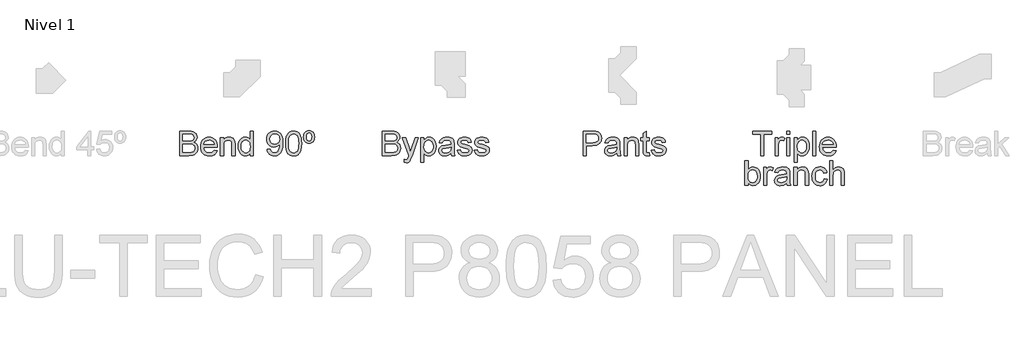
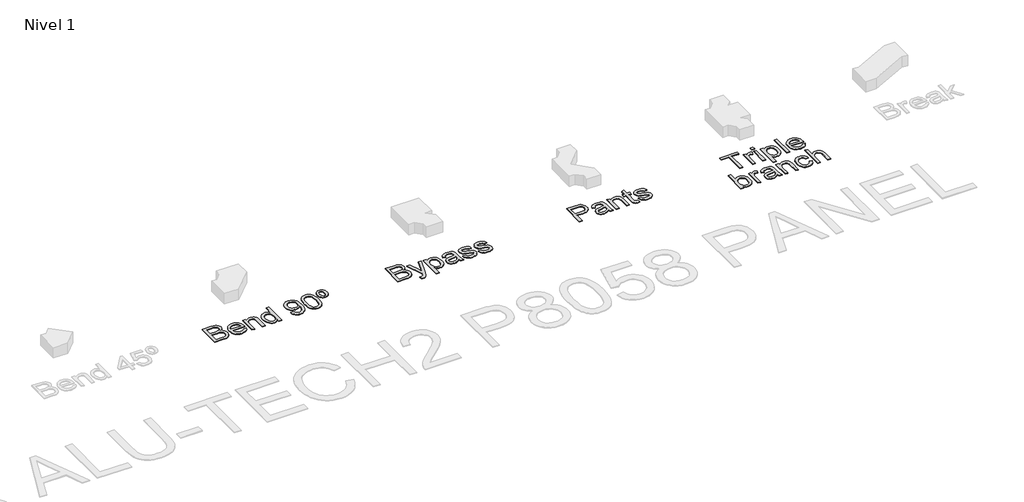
# One storey, part 4 of 6: 4 proxies.
"""IFC4 building model written with IfcOpenShell, lengths in millimetres."""

from ifc_helpers import new_model, si_unit, origin, origin_with_axes, place, context, project, spatial, polyline, outline, extrude, element, save

model = new_model("IFC4")

# Units and contexts
model_context = context("Model", 3, world=origin())
ifc_project = project(units=[si_unit("LENGTHUNIT", "METRE", prefix="MILLI")], contexts=[model_context])

# Site, building, storey
site = spatial("IfcSite", under=ifc_project)
building = spatial("IfcBuilding", under=site)
storey = spatial("IfcBuildingStorey", under=building, Name="Nivel 1", Elevation=0.0)

# Proxies
placement = place(None, origin())
element("IfcBuildingElementProxy", 1, Name="Texto de modelo 1", ObjectType="Texto de modelo 1", at=placement, inside=storey, context=model_context, shape_type="SweptSolid", body=[
    extrude(outline(polyline([(-8147.2257792, -1016.3248037), (-8147.2257792, -614.4995631), (-7993.8925636, -614.4995631), (-7951.7210242, -617.4548818), (-7918.7955857, -626.3208379), (-7893.5588808, -641.3181605), (-7874.4535425, -662.667579), (-7862.4238013, -687.7816565), (-7858.4138875, -714.0729565), (-7861.7861391, -738.267329), (-7871.902894, -761.014699), (-7888.8377285, -780.917115), (-7912.6642191, -796.5766252), (-7884.2024154, -811.4390578), (-7863.171828, -834.0515378), (-7850.1855936, -862.9180117), (-7845.8568488, -896.5424261), (-7848.8121674, -924.5627714), (-7857.6781235, -950.547503), (-7870.9096126, -972.6449481), (-7886.9615303, -989.0034342), (-7906.6186916, -1000.8492344), (-7930.6659114, -1009.4086222), (-7959.8880045, -1014.5957583), (-7995.069786, -1016.3248037), (-8147.2257792, -1016.3248037)]), holes=[polyline([(-8096.9976241, -777.7410671), (-8005.27238, -777.7410671), (-7951.7087615, -773.424585), (-7932.9590425, -765.981106), (-7919.4822987, -754.8342815), (-7911.3521066, -740.1557899), (-7908.6420426, -722.1173094), (-7911.1681656, -704.6061264), (-7918.7465347, -689.3512864), (-7931.0337934, -677.4441725), (-7947.686585, -669.976168), (-7973.2421209, -666.0398306), (-8012.2376124, -664.7277182), (-8096.9976241, -664.7277182), (-8096.9976241, -777.7410671)]), polyline([(-8096.9976241, -966.0966486), (-7993.9906655, -966.0966486), (-7956.7119566, -964.1346113), (-7925.1722069, -953.1962533), (-7913.5961868, -943.7662115), (-7904.2765096, -930.8780789), (-7898.1328803, -915.1082041), (-7896.0850038, -897.0329354), (-7898.4884995, -876.0391362), (-7905.6989866, -857.988393), (-7918.2928136, -843.8739871), (-7936.8463289, -834.6891999), (-7963.1253661, -829.6492166), (-7998.8957587, -827.9692222), (-8096.9976241, -827.9692222), (-8096.9976241, -966.0966486)])]), origin_with_axes(), (0.0, 0.0, 1.0), 10.0),
    extrude(outline(polyline([(-7576.4691264, -928.4255323), (-7527.22199, -934.7040517), (-7534.7727679, -954.428658), (-7544.9661649, -971.8110823), (-7557.8021808, -986.8513245), (-7573.2808158, -999.5493847), (-7591.2426542, -1009.6354827), (-7611.5282806, -1016.8398385), (-7659.0708971, -1022.6033231), (-7690.2366334, -1020.1170539), (-7718.0055927, -1012.6582465), (-7742.3777749, -1000.2269007), (-7763.35318, -982.8230167), (-7780.2205694, -960.9309723), (-7792.2687048, -935.0351455), (-7799.497586, -905.1355363), (-7801.9072131, -871.2321448), (-7799.4730605, -836.179122), (-7792.1706029, -805.2831658), (-7779.9998402, -778.5442761), (-7762.9607725, -755.962453), (-7742.0405497, -738.0220743), (-7718.2263219, -725.2075182), (-7691.518089, -717.5187845), (-7661.9158512, -714.9558732), (-7633.2670408, -717.5126531), (-7607.3589513, -725.1829927), (-7584.1915826, -737.966892), (-7563.7649348, -755.8643511), (-7547.0906834, -778.3971233), (-7535.1805038, -805.0869621), (-7528.0343961, -835.9338674), (-7525.6523601, -870.9378392), (-7525.9466657, -884.4758966), (-7751.679058, -884.4758966), (-7748.7697245, -904.519334), (-7742.9847802, -922.0734365), (-7734.3242249, -937.1382042), (-7722.7880586, -949.7136371), (-7709.0139436, -959.6280569), (-7693.6395419, -966.7097853), (-7658.0898784, -972.375168), (-7631.3571201, -969.7509431), (-7608.842742, -961.8782684), (-7590.5467441, -948.2666346), (-7576.4691264, -928.4255323)]), holes=[polyline([(-7751.679058, -834.2477415), (-7575.8805152, -834.2477415), (-7582.6740694, -807.711187), (-7595.9913976, -788.728476), (-7609.6888706, -778.4277801), (-7625.2748044, -771.0701402), (-7642.7491992, -766.6555563), (-7662.1120549, -765.1840283), (-7695.9694612, -769.8806551), (-7723.965281, -783.9705355), (-7743.4262386, -805.9330907), (-7751.679058, -834.2477415)])]), origin_with_axes(), (0.0, 0.0, 1.0), 10.0),
    extrude(outline(polyline([(-7475.4242051, -1016.3248037), (-7475.4242051, -721.2343926), (-7425.19605, -721.2343926), (-7425.19605, -762.4371761), (-7407.7461807, -741.6641061), (-7386.7891697, -726.826199), (-7362.325017, -717.9234547), (-7334.3537227, -714.9558732), (-7309.5952644, -717.3471062), (-7286.9214707, -724.5208051), (-7268.0123362, -735.5817904), (-7254.5478552, -749.6348827), (-7245.412119, -766.6432936), (-7239.4892188, -786.570235), (-7236.8404685, -835.1306583), (-7236.8404685, -1016.3248037), (-7287.0686235, -1016.3248037), (-7287.0686235, -841.899687), (-7288.5156261, -815.9272182), (-7292.8566336, -797.459542), (-7300.8641984, -784.2280529), (-7313.3108725, -773.9641453), (-7329.2646884, -767.3790576), (-7347.7936782, -765.1840283), (-7377.2119751, -770.1136471), (-7402.2892644, -784.9025033), (-7412.3109831, -796.9751641), (-7419.4693536, -813.4746716), (-7423.7643759, -834.4010257), (-7425.19605, -859.7542265), (-7425.19605, -1016.3248037), (-7475.4242051, -1016.3248037)])), origin_with_axes(), (0.0, 0.0, 1.0), 10.0),
    extrude(outline(polyline([(-6985.6996931, -1016.3248037), (-6985.6996931, -968.9416027), (-7000.7276726, -992.4186054), (-7018.9317, -1009.187893), (-7040.3117753, -1019.2494656), (-7064.8678985, -1022.6033231), (-7097.3396159, -1017.7472807), (-7127.0644811, -1003.1791537), (-7152.2276096, -979.9167489), (-7171.0141168, -948.9778731), (-7182.7127642, -911.6133251), (-7186.6123134, -869.0739038), (-7183.0193326, -827.0617799), (-7172.2403901, -789.1208835), (-7154.2877488, -757.4094555), (-7129.1736712, -734.085737), (-7098.7988811, -719.7383392), (-7065.0641022, -714.9558732), (-7040.4895849, -718.3771758), (-7018.7600217, -728.6410835), (-7000.3413965, -744.3741701), (-6985.6996931, -764.2030097), (-6985.6996931, -614.4995631), (-6935.471538, -614.4995631), (-6935.471538, -1016.3248037), (-6985.6996931, -1016.3248037)]), holes=[polyline([(-7136.3841583, -868.8777), (-7134.9678126, -893.2345538), (-7130.7187756, -914.3111264), (-7123.6370472, -932.1074179), (-7113.7226274, -946.6234283), (-7089.0254828, -965.9372331), (-7075.1502002, -970.7656843), (-7060.2571108, -972.375168), (-7045.2935106, -970.8392607), (-7031.5010015, -966.2315387), (-7007.4292563, -947.8006507), (-6997.9225724, -933.8916456), (-6991.1320839, -916.7391476), (-6985.6996931, -872.7036728), (-6991.2301858, -824.5601823), (-6998.1433016, -806.0250612), (-7007.8216637, -791.1810226), (-7019.5233769, -779.8073376), (-7032.5065456, -771.6832769), (-7046.77117, -766.8088405), (-7062.31725, -765.1840283), (-7077.504645, -766.7444611), (-7091.3799276, -771.4257595), (-7103.9430977, -779.2279235), (-7115.1941554, -790.1509531), (-7124.4647817, -804.4339715), (-7131.0866576, -822.3161022), (-7136.3841583, -868.8777)])]), origin_with_axes(), (0.0, 0.0, 1.0), 10.0),
    extrude(outline(polyline([(-6709.4448402, -915.8684935), (-6659.2166851, -909.5899742), (-6650.6327719, -938.1008288), (-6636.6532561, -957.5127354), (-6617.6214942, -968.6595599), (-6593.8808428, -972.375168), (-6572.5804752, -969.983935), (-6553.2176196, -962.8102361), (-6537.1289136, -951.6388862), (-6525.6509954, -937.2547002), (-6509.2189329, -893.5993701), (-6503.7742794, -865.1988801), (-6501.9593949, -835.3268621), (-6502.2537005, -825.5166755), (-6519.6545189, -846.7557294), (-6542.4264144, -863.5801993), (-6568.9261808, -874.5430828), (-6597.5106118, -878.1973772), (-6621.3708249, -875.9655598), (-6643.3119202, -869.2701075), (-6663.3338978, -858.1110203), (-6681.4367576, -842.4882982), (-6696.437146, -823.2174131), (-6707.1517091, -801.1138365), (-6713.5804469, -776.1775686), (-6715.7233596, -748.4086093), (-6713.4762137, -719.7138137), (-6706.7347762, -693.9620741), (-6695.4990469, -671.1533904), (-6679.7690259, -651.2877626), (-6660.6544906, -635.1929253), (-6639.2652182, -623.696613), (-6615.6012089, -616.7988256), (-6589.6624626, -614.4995631), (-6552.1998127, -619.7480129), (-6518.0971518, -635.4933623), (-6489.5740344, -660.9507964), (-6468.8500153, -695.3355002), (-6456.2316629, -742.8658539), (-6452.0255454, -807.7602379), (-6456.2194002, -876.5664337), (-6468.8009644, -929.7499075), (-6489.6598735, -969.7141549), (-6503.1519457, -985.6403796), (-6518.685763, -998.8626717), (-6535.9486256, -1009.2492067), (-6554.6278339, -1016.6681602), (-6596.2352875, -1022.6033231), (-6618.7925852, -1020.8528179), (-6639.1793791, -1015.6013024), (-6657.3956692, -1006.8487766), (-6673.4414556, -994.5952405), (-6686.912068, -979.1717879), (-6697.4028362, -960.9095125), (-6704.9137603, -939.8084144), (-6709.4448402, -915.8684935)]), holes=[polyline([(-6502.2537005, -747.231387), (-6507.6738286, -713.1900397), (-6514.4489886, -699.112422), (-6523.9342127, -686.9968416), (-6535.663517, -677.2541001), (-6549.1709176, -670.294999), (-6581.5200077, -664.7277182), (-6599.1292926, -666.2268373), (-6615.0708457, -670.7241947), (-6629.3446671, -678.2197903), (-6641.9507568, -688.7136243), (-6652.2514527, -701.5925598), (-6659.6090926, -716.2434602), (-6664.0236765, -732.6663256), (-6665.4952045, -750.861156), (-6659.9279236, -781.8981336), (-6652.9688226, -795.0161924), (-6643.2260811, -806.5339646), (-6631.1043693, -815.9118898), (-6617.0083575, -822.6104078), (-6582.8934338, -827.9692222), (-6550.8018611, -822.6104078), (-6524.9642823, -806.5339646), (-6515.0284028, -794.7893319), (-6507.931346, -780.9906914), (-6502.2537005, -747.231387)])]), origin_with_axes(), (0.0, 0.0, 1.0), 10.0),
    extrude(outline(polyline([(-6408.0759097, -818.649545), (-6404.384827, -754.3315095), (-6393.311579, -703.0364966), (-6374.9665302, -663.9796914), (-6363.1084672, -648.7463112), (-6349.4600452, -636.3762791), (-6333.9752789, -626.8052158), (-6316.608183, -619.9687421), (-6276.2270027, -614.4995631), (-6245.2758641, -617.7369247), (-6217.5620872, -627.4490093), (-6194.3855215, -643.2556724), (-6177.0460168, -664.7767691), (-6163.9494177, -691.8283585), (-6153.5015691, -724.2264995), (-6146.658964, -765.3679693), (-6144.3780956, -818.649545), (-6148.0323901, -882.5996984), (-6158.9952735, -933.772084), (-6177.2299578, -972.8656773), (-6189.0604296, -988.1450429), (-6202.6996546, -1000.5794543), (-6218.202815, -1010.2148969), (-6235.6250931, -1017.0973559), (-6276.2270027, -1022.6033231), (-6303.8917287, -1020.2120901), (-6328.417195, -1013.0383912), (-6349.8034017, -1001.0822264), (-6368.0503487, -984.3435956), (-6385.5615316, -954.0853015), (-6398.0695195, -916.3835283), (-6405.5743122, -871.2382762), (-6408.0759097, -818.649545)]), holes=[polyline([(-6357.8477547, -818.5514431), (-6356.3762267, -862.2159702), (-6351.9616427, -897.5602329), (-6344.6040028, -924.5842311), (-6334.303307, -943.2879649), (-6321.8443701, -956.0136163), (-6308.012007, -965.1033672), (-6292.8062179, -970.5572178), (-6276.2270027, -972.375168), (-6259.6477874, -970.5510864), (-6244.4419983, -965.0788418), (-6230.6096353, -955.958434), (-6218.1506984, -943.1898631), (-6207.8500025, -924.4554724), (-6200.4923626, -897.4376056), (-6196.0777786, -862.1362625), (-6194.6062507, -818.5514431), (-6196.0287277, -776.0426785), (-6200.2961589, -741.3207496), (-6207.4085441, -714.3856562), (-6217.3658834, -695.2373983), (-6229.6163539, -681.8894132), (-6243.6081324, -672.3551382), (-6259.3412191, -666.6345732), (-6276.8156139, -664.7277182), (-6293.30899, -666.4077126), (-6308.2572617, -671.4476959), (-6321.6604291, -679.8476682), (-6333.518492, -691.6076293), (-6344.1625444, -712.4542757), (-6351.765439, -740.5604601), (-6356.3271757, -775.9261826), (-6357.8477547, -818.5514431)])]), origin_with_axes(), (0.0, 0.0, 1.0), 10.0),
    extrude(outline(polyline([(-6021.9469676, -608.2210437), (-6002.7619215, -609.9439577), (-5985.4285482, -615.1126998), (-5969.9468476, -623.7272698), (-5956.3168197, -635.7876679), (-5945.200652, -650.8830924), (-5937.2605323, -668.6027419), (-5932.4964605, -688.9466162), (-5930.9084365, -711.9147154), (-5932.5056575, -734.7969755), (-5937.2973205, -755.0795362), (-5945.2834255, -772.7623974), (-5956.4639725, -787.8455592), (-5970.1215915, -799.9059573), (-5985.5389128, -808.5205274), (-6002.7159363, -813.6892694), (-6021.652662, -815.4121834), (-6040.8469051, -813.7229919), (-6058.2078696, -808.6554174), (-6073.7355555, -800.2094599), (-6087.4299627, -788.3851195), (-6098.6105097, -773.5441467), (-6106.5966147, -756.0482921), (-6111.3882777, -735.8975558), (-6112.9854987, -713.0919378), (-6111.3974747, -689.6088038), (-6106.6334029, -668.8970474), (-6098.6932832, -650.9566688), (-6087.5771155, -635.7876679), (-6073.9470876, -623.7272698), (-6058.465387, -615.1126998), (-6041.1320136, -609.9439577), (-6021.9469676, -608.2210437)]), holes=[polyline([(-6021.9469676, -645.89216), (-6038.5139201, -649.754921), (-6051.52468, -661.3432038), (-6059.9491777, -681.6870781), (-6062.7573436, -711.8166136), (-6059.9001268, -741.394326), (-6051.3284763, -761.8485649), (-6038.2686654, -773.7679415), (-6021.9469676, -777.7410671), (-6005.5026424, -773.7679415), (-5992.467357, -761.8485649), (-5983.969283, -741.0509694), (-5981.1365916, -710.4431874), (-5983.9938084, -681.7116036), (-5992.5654589, -661.6375094), (-6005.6252697, -649.8284974), (-6021.9469676, -645.89216)])]), origin_with_axes(), (0.0, 0.0, 1.0), 10.0),
])
element("IfcBuildingElementProxy", 2, Name="Texto de modelo 1", ObjectType="Texto de modelo 1", at=placement, inside=storey, context=model_context, shape_type="SweptSolid", body=[
    extrude(outline(polyline([(-4821.1990814, -1016.3248037), (-4821.1990814, -614.4995631), (-4667.8658658, -614.4995631), (-4625.6943264, -617.4548818), (-4592.7688878, -626.3208379), (-4567.532183, -641.3181605), (-4548.4268447, -662.667579), (-4536.3971034, -687.7816565), (-4532.3871897, -714.0729565), (-4535.7594413, -738.267329), (-4545.8761962, -761.014699), (-4562.8110307, -780.917115), (-4586.6375212, -796.5766252), (-4558.1757175, -811.4390578), (-4537.1451302, -834.0515378), (-4524.1588957, -862.9180117), (-4519.8301509, -896.5424261), (-4522.7854696, -924.5627714), (-4531.6514257, -950.547503), (-4544.8829148, -972.6449481), (-4560.9348325, -989.0034342), (-4580.5919938, -1000.8492344), (-4604.6392135, -1009.4086222), (-4633.8613067, -1014.5957583), (-4669.0430882, -1016.3248037), (-4821.1990814, -1016.3248037)]), holes=[polyline([(-4770.9709263, -777.7410671), (-4679.2456822, -777.7410671), (-4625.6820637, -773.424585), (-4606.9323446, -765.981106), (-4593.4556009, -754.8342815), (-4585.3254088, -740.1557899), (-4582.6153448, -722.1173094), (-4585.1414678, -704.6061264), (-4592.7198369, -689.3512864), (-4605.0070955, -677.4441725), (-4621.6598872, -669.976168), (-4647.2154231, -666.0398306), (-4686.2109146, -664.7277182), (-4770.9709263, -664.7277182), (-4770.9709263, -777.7410671)]), polyline([(-4770.9709263, -966.0966486), (-4667.9639676, -966.0966486), (-4630.6852588, -964.1346113), (-4599.1455091, -953.1962533), (-4587.569489, -943.7662115), (-4578.2498117, -930.8780789), (-4572.1061824, -915.1082041), (-4570.058306, -897.0329354), (-4572.4618017, -876.0391362), (-4579.6722888, -857.988393), (-4592.2661158, -843.8739871), (-4610.8196311, -834.6891999), (-4637.0986682, -829.6492166), (-4672.8690609, -827.9692222), (-4770.9709263, -827.9692222), (-4770.9709263, -966.0966486)])]), origin_with_axes(), (0.0, 0.0, 1.0), 10.0),
    extrude(outline(polyline([(-4457.0449571, -1129.3381526), (-4463.3234765, -1080.973933), (-4437.8169915, -1085.3885169), (-4424.4015614, -1084.0028281), (-4413.9782382, -1079.8457615), (-4399.3610602, -1064.3947177), (-4385.6267991, -1027.4103145), (-4381.7027245, -1015.2456832), (-4488.437554, -721.2343926), (-4435.4625467, -721.2343926), (-4378.8577704, -885.0645078), (-4359.1392954, -950.5965539), (-4339.4208205, -892.7164533), (-4281.2464143, -721.2343926), (-4228.6638145, -721.2343926), (-4331.3764675, -1023.388138), (-4358.0601749, -1088.9201841), (-4371.7208597, -1109.8404069), (-4387.1964289, -1124.3349575), (-4405.1735958, -1132.7962434), (-4426.3390732, -1135.616672), (-4457.0449571, -1129.3381526)])), origin_with_axes(), (0.0, 0.0, 1.0), 10.0),
    extrude(outline(polyline([(-4187.0686235, -1129.3381526), (-4187.0686235, -721.2343926), (-4136.8404685, -721.2343926), (-4136.8404685, -770.4815291), (-4120.4574569, -746.1890546), (-4102.1124081, -728.8372872), (-4080.7262015, -718.4262267), (-4055.2197165, -714.9558732), (-4021.2519456, -719.8119156), (-3991.5516058, -734.3800426), (-3967.369496, -757.7773375), (-3949.9564149, -789.1208835), (-3939.4349899, -826.1298122), (-3935.9278482, -866.5232553), (-3939.888711, -909.4796096), (-3951.7712994, -947.8987526), (-3971.1954688, -979.8309098), (-3997.7810743, -1003.3263065), (-4028.7444756, -1017.7840689), (-4061.3020321, -1022.6033231), (-4084.3927587, -1019.3782243), (-4105.0064132, -1009.7029278), (-4122.6524862, -995.0980126), (-4136.8404685, -977.0840575), (-4136.8404685, -1129.3381526), (-4187.0686235, -1129.3381526)]), holes=[polyline([(-4136.8404685, -871.1340429), (-4131.4080777, -916.1627991), (-4124.6175892, -933.6004057), (-4115.1109053, -947.6534979), (-4091.0636855, -966.1947505), (-4077.3018332, -970.8300636), (-4062.3811526, -972.375168), (-4047.2458742, -970.7748813), (-4033.2326359, -965.9740213), (-4020.3414376, -957.9725879), (-4008.5722795, -946.7705811), (-3998.7651586, -932.2085855), (-3991.7600723, -914.1271854), (-3987.5570205, -892.526381), (-3986.1560032, -867.406172), (-3991.6251822, -822.6226705), (-3998.461656, -805.0501739), (-4008.0327192, -790.6905133), (-4032.0431508, -771.5606496), (-4045.6486532, -766.7781836), (-4060.3210135, -765.1840283), (-4074.9473885, -766.8793512), (-4088.7092408, -771.9653198), (-4113.6393773, -792.3091941), (-4123.7898547, -807.4076843), (-4131.0401957, -825.5779892), (-4135.3904003, -846.8201087), (-4136.8404685, -871.1340429)])]), origin_with_axes(), (0.0, 0.0, 1.0), 10.0),
    extrude(outline(polyline([(-3691.0655922, -978.6536874), (-3715.063761, -999.2305537), (-3739.7731683, -1012.6950347), (-3765.7578999, -1020.126251), (-3793.5820415, -1022.6033231), (-3815.9462011, -1021.113401), (-3835.5573772, -1016.6436348), (-3852.4155696, -1009.1940244), (-3866.5207784, -998.7645698), (-3877.6584058, -986.0174587), (-3885.613854, -971.6148785), (-3890.3871228, -955.5568295), (-3891.9782125, -937.8433114), (-3889.5747168, -917.0211905), (-3882.3642297, -898.1120559), (-3871.2419307, -881.9252481), (-3857.1029993, -869.2701075), (-3840.4869959, -859.7051756), (-3821.9334806, -852.7889941), (-3778.4743542, -845.2351505), (-3727.1180277, -837.2888994), (-3691.3598978, -827.9692222), (-3691.0655922, -816.7856095), (-3694.5236829, -794.3693333), (-3704.8979552, -779.7031044), (-3728.0990464, -768.8137973), (-3760.423611, -765.1840283), (-3790.3446799, -767.5997868), (-3811.2403773, -774.8470621), (-3825.4896732, -788.2502294), (-3835.471538, -809.133664), (-3885.6996931, -802.8551446), (-3876.9808898, -775.3866223), (-3863.9701299, -753.8042119), (-3845.4534028, -737.2985731), (-3820.216698, -725.0603654), (-3789.3513986, -717.4819963), (-3753.9488879, -714.9558732), (-3719.9933797, -717.1876907), (-3693.0766804, -723.883143), (-3672.781857, -733.9508469), (-3658.6919766, -746.2994192), (-3649.3477739, -761.566522), (-3643.2899837, -780.3898175), (-3640.8374371, -824.3394531), (-3640.8374371, -886.8303414), (-3638.2867886, -974.0919506), (-3628.2803983, -1016.3248037), (-3678.5085534, -1016.3248037), (-3686.5529064, -998.8626717), (-3691.0655922, -978.6536874)]), holes=[polyline([(-3691.0655922, -878.1973772), (-3724.8126339, -886.5605613), (-3772.097733, -893.5993701), (-3815.3116047, -901.7418249), (-3826.556531, -907.3091058), (-3834.8829268, -914.9855768), (-3840.0332748, -924.1826266), (-3841.7500574, -934.3116442), (-3838.0099238, -949.2476532), (-3826.7895229, -961.4858609), (-3808.3341095, -969.6528412), (-3782.8889382, -972.375168), (-3755.9109252, -969.3707984), (-3732.0721719, -960.3576895), (-3712.7461044, -947.0771495), (-3699.3061489, -931.2704864), (-3693.3464605, -914.9855768), (-3691.3598978, -892.4221477), (-3691.0655922, -878.1973772)])]), origin_with_axes(), (0.0, 0.0, 1.0), 10.0),
    extrude(outline(polyline([(-3590.609282, -928.4255323), (-3540.381127, -922.1470129), (-3532.4594013, -943.6313214), (-3517.1309849, -959.4257218), (-3494.2977757, -969.1378064), (-3463.861672, -972.375168), (-3433.7934502, -969.4075866), (-3412.6524982, -960.5048423), (-3400.1445104, -947.604447), (-3395.9751811, -932.6439125), (-3400.1690359, -919.8416191), (-3412.7506001, -910.0804835), (-3464.4502832, -895.7576111), (-3540.0868214, -871.1830939), (-3559.2289478, -858.8345216), (-3573.0980991, -842.4882982), (-3581.5225967, -823.1867562), (-3584.3307626, -801.9722278), (-3582.0744197, -782.5112703), (-3575.305391, -764.5463662), (-3564.6368132, -748.7887541), (-3550.6818228, -735.9496724), (-3518.7496656, -721.0872398), (-3497.866231, -716.4887149), (-3475.5357939, -714.9558732), (-3442.8433473, -717.4206826), (-3414.4183318, -724.8151107), (-3391.5605972, -736.4156563), (-3375.5699931, -751.4988181), (-3364.9749917, -771.1805048), (-3358.3040648, -796.5766252), (-3408.5322199, -802.8551446), (-3414.8720529, -787.0484816), (-3427.416829, -775.1413677), (-3446.2891753, -767.6733632), (-3471.6117193, -765.1840283), (-3500.4536677, -767.5629986), (-3519.6816334, -774.6999093), (-3530.497364, -785.0006051), (-3534.1026076, -796.8709308), (-3528.1183938, -811.4881088), (-3509.3809375, -822.5736196), (-3466.1180149, -833.2667229), (-3392.394463, -856.9092725), (-3372.9212428, -868.2155124), (-3358.156912, -883.6910817), (-3348.8494975, -903.3850312), (-3345.747026, -927.3464118), (-3349.3890578, -952.1171328), (-3360.315153, -975.4163258), (-3378.1083789, -995.4168436), (-3402.3518024, -1010.291539), (-3431.6352092, -1019.5253771), (-3464.548385, -1022.6033231), (-3491.5815803, -1021.1195324), (-3515.193473, -1016.6681602), (-3535.3840632, -1009.2492067), (-3552.1533508, -998.8626717), (-3565.8508238, -985.5576062), (-3576.8259699, -969.3830611), (-3585.0787894, -950.3390365), (-3590.609282, -928.4255323)])), origin_with_axes(), (0.0, 0.0, 1.0), 10.0),
    extrude(outline(polyline([(-3308.0759097, -928.4255323), (-3257.8477547, -922.1470129), (-3249.926029, -943.6313214), (-3234.5976126, -959.4257218), (-3211.7644034, -969.1378064), (-3181.3282997, -972.375168), (-3151.2600779, -969.4075866), (-3130.1191259, -960.5048423), (-3117.6111381, -947.604447), (-3113.4418088, -932.6439125), (-3117.6356636, -919.8416191), (-3130.2172278, -910.0804835), (-3181.9169109, -895.7576111), (-3257.5534491, -871.1830939), (-3276.6955755, -858.8345216), (-3290.5647268, -842.4882982), (-3298.9892245, -823.1867562), (-3301.7973903, -801.9722278), (-3299.5410474, -782.5112703), (-3292.7720187, -764.5463662), (-3282.1034409, -748.7887541), (-3268.1484505, -735.9496724), (-3236.2162933, -721.0872398), (-3215.3328587, -716.4887149), (-3193.0024216, -714.9558732), (-3160.309975, -717.4206826), (-3131.8849595, -724.8151107), (-3109.0272249, -736.4156563), (-3093.0366208, -751.4988181), (-3082.4416194, -771.1805048), (-3075.7706925, -796.5766252), (-3125.9988476, -802.8551446), (-3132.3386806, -787.0484816), (-3144.8834567, -775.1413677), (-3163.755803, -767.6733632), (-3189.078347, -765.1840283), (-3217.9202954, -767.5629986), (-3237.1482611, -774.6999093), (-3247.9639917, -785.0006051), (-3251.5692353, -796.8709308), (-3245.5850215, -811.4881088), (-3226.8475652, -822.5736196), (-3183.5846426, -833.2667229), (-3109.8610907, -856.9092725), (-3090.3878705, -868.2155124), (-3075.6235397, -883.6910817), (-3066.3161252, -903.3850312), (-3063.2136537, -927.3464118), (-3066.8556855, -952.1171328), (-3077.7817808, -975.4163258), (-3095.5750066, -995.4168436), (-3119.8184301, -1010.291539), (-3149.1018369, -1019.5253771), (-3182.0150127, -1022.6033231), (-3209.048208, -1021.1195324), (-3232.6601007, -1016.6681602), (-3252.8506909, -1009.2492067), (-3269.6199785, -998.8626717), (-3283.3174515, -985.5576062), (-3294.2925976, -969.3830611), (-3302.5454171, -950.3390365), (-3308.0759097, -928.4255323)])), origin_with_axes(), (0.0, 0.0, 1.0), 10.0),
])
element("IfcBuildingElementProxy", 3, Name="Texto de modelo 1", ObjectType="Texto de modelo 1", at=placement, inside=storey, context=model_context, shape_type="SweptSolid", body=[
    extrude(outline(polyline([(-1523.4257208, -1016.3248037), (-1523.4257208, -614.4995631), (-1374.5070891, -614.4995631), (-1314.4687475, -618.3255358), (-1287.699201, -625.4747093), (-1265.6630695, -637.1120431), (-1247.9188946, -653.7648347), (-1234.0252179, -675.9603818), (-1225.0488972, -702.1413171), (-1222.0567903, -730.7502736), (-1224.0770756, -755.4167613), (-1230.1379315, -778.1089491), (-1240.2393579, -798.8268368), (-1254.3813549, -817.5704244), (-1273.7963272, -833.1073074), (-1299.7166795, -844.2050809), (-1332.1424117, -850.863745), (-1371.0735238, -853.0832997), (-1473.1975657, -853.0832997), (-1473.1975657, -1016.3248037), (-1523.4257208, -1016.3248037)]), holes=[polyline([(-1473.1975657, -802.8551446), (-1368.1304679, -802.8551446), (-1323.592221, -798.244357), (-1306.9884803, -792.4808724), (-1294.1616614, -784.4119939), (-1284.5905981, -774.2523195), (-1277.7541244, -762.2164469), (-1272.2849454, -732.5161071), (-1275.5100442, -709.9526781), (-1285.1853407, -690.9209162), (-1300.1090869, -676.5980439), (-1319.0795352, -668.1612835), (-1369.3076902, -664.7277182), (-1473.1975657, -664.7277182), (-1473.1975657, -802.8551446)])]), origin_with_axes(), (0.0, 0.0, 1.0), 10.0),
    extrude(outline(polyline([(-970.9160149, -978.6536874), (-994.9141838, -999.2305537), (-1019.6235911, -1012.6950347), (-1045.6083227, -1020.126251), (-1073.4324643, -1022.6033231), (-1095.7966239, -1021.113401), (-1115.4077999, -1016.6436348), (-1132.2659923, -1009.1940244), (-1146.3712012, -998.7645698), (-1157.5088286, -986.0174587), (-1165.4642767, -971.6148785), (-1170.2375456, -955.5568295), (-1171.8286352, -937.8433114), (-1169.4251395, -917.0211905), (-1162.2146524, -898.1120559), (-1151.0923534, -881.9252481), (-1136.9534221, -869.2701075), (-1120.3374186, -859.7051756), (-1101.7839034, -852.7889941), (-1058.324777, -845.2351505), (-1006.9684505, -837.2888994), (-971.2103205, -827.9692222), (-970.9160149, -816.7856095), (-974.3741057, -794.3693333), (-984.748378, -779.7031044), (-1007.9494691, -768.8137973), (-1040.2740338, -765.1840283), (-1070.1951027, -767.5997868), (-1091.0908, -774.8470621), (-1105.340096, -788.2502294), (-1115.3219608, -809.133664), (-1165.5501158, -802.8551446), (-1156.8313126, -775.3866223), (-1143.8205527, -753.8042119), (-1125.3038256, -737.2985731), (-1100.0671207, -725.0603654), (-1069.2018213, -717.4819963), (-1033.7993106, -714.9558732), (-999.8438025, -717.1876907), (-972.9271032, -723.883143), (-952.6322798, -733.9508469), (-938.5423994, -746.2994192), (-929.1981967, -761.566522), (-923.1404065, -780.3898175), (-920.6878599, -824.3394531), (-920.6878599, -886.8303414), (-918.1372114, -974.0919506), (-908.1308211, -1016.3248037), (-958.3589762, -1016.3248037), (-966.4033291, -998.8626717), (-970.9160149, -978.6536874)]), holes=[polyline([(-970.9160149, -878.1973772), (-1004.6630566, -886.5605613), (-1051.9481557, -893.5993701), (-1095.1620274, -901.7418249), (-1106.4069538, -907.3091058), (-1114.7333496, -914.9855768), (-1119.8836975, -924.1826266), (-1121.6004802, -934.3116442), (-1117.8603465, -949.2476532), (-1106.6399457, -961.4858609), (-1088.1845323, -969.6528412), (-1062.7393609, -972.375168), (-1035.7613479, -969.3707984), (-1011.9225947, -960.3576895), (-992.5965272, -947.0771495), (-979.1565716, -931.2704864), (-973.1968833, -914.9855768), (-971.2103205, -892.4221477), (-970.9160149, -878.1973772)])]), origin_with_axes(), (0.0, 0.0, 1.0), 10.0),
    extrude(outline(polyline([(-851.6241466, -1016.3248037), (-851.6241466, -721.2343926), (-801.3959916, -721.2343926), (-801.3959916, -762.4371761), (-783.9461223, -741.6641061), (-762.9891113, -726.826199), (-738.5249586, -717.9234547), (-710.5536642, -714.9558732), (-685.7952059, -717.3471062), (-663.1214123, -724.5208051), (-644.2122777, -735.5817904), (-630.7477967, -749.6348827), (-621.6120605, -766.6432936), (-615.6891604, -786.570235), (-613.04041, -835.1306583), (-613.04041, -1016.3248037), (-663.2685651, -1016.3248037), (-663.2685651, -841.899687), (-664.7155676, -815.9272182), (-669.0565752, -797.459542), (-677.0641399, -784.2280529), (-689.5108141, -773.9641453), (-705.4646299, -767.3790576), (-723.9936198, -765.1840283), (-753.4119167, -770.1136471), (-778.489206, -784.9025033), (-788.5109247, -796.9751641), (-795.6692952, -813.4746716), (-799.9643175, -834.4010257), (-801.3959916, -859.7542265), (-801.3959916, -1016.3248037), (-851.6241466, -1016.3248037)])), origin_with_axes(), (0.0, 0.0, 1.0), 10.0),
    extrude(outline(polyline([(-437.2418673, -974.4353072), (-430.9633479, -1017.7963317), (-468.5363623, -1022.6033231), (-492.6448957, -1020.5186584), (-510.6220626, -1014.2646645), (-523.3262541, -1004.6261562), (-531.6158618, -992.3879485), (-536.1775985, -971.3696239), (-537.6981774, -935.3907648), (-537.6981774, -771.4625477), (-575.3692937, -771.4625477), (-575.3692937, -721.2343926), (-537.6981774, -721.2343926), (-537.6981774, -649.521929), (-487.4700223, -619.9932676), (-487.4700223, -721.2343926), (-437.2418673, -721.2343926), (-437.2418673, -771.4625477), (-487.4700223, -771.4625477), (-487.4700223, -933.9192368), (-484.821272, -959.8181292), (-476.2373588, -968.9906536), (-459.1185832, -972.375168), (-437.2418673, -974.4353072)])), origin_with_axes(), (0.0, 0.0, 1.0), 10.0),
    extrude(outline(polyline([(-405.8492703, -928.4255323), (-355.6211153, -922.1470129), (-347.6993896, -943.6313214), (-332.3709732, -959.4257218), (-309.537764, -969.1378064), (-279.1016603, -972.375168), (-249.0334385, -969.4075866), (-227.8924865, -960.5048423), (-215.3844987, -947.604447), (-211.2151694, -932.6439125), (-215.4090242, -919.8416191), (-227.9905884, -910.0804835), (-279.6902715, -895.7576111), (-355.3268097, -871.1830939), (-374.4689362, -858.8345216), (-388.3380874, -842.4882982), (-396.7625851, -823.1867562), (-399.570751, -801.9722278), (-397.3144081, -782.5112703), (-390.5453793, -764.5463662), (-379.8768015, -748.7887541), (-365.9218111, -735.9496724), (-333.9896539, -721.0872398), (-313.1062194, -716.4887149), (-290.7757822, -714.9558732), (-258.0833356, -717.4206826), (-229.6583201, -724.8151107), (-206.8005855, -736.4156563), (-190.8099814, -751.4988181), (-180.21498, -771.1805048), (-173.5440531, -796.5766252), (-223.7722082, -802.8551446), (-230.1120412, -787.0484816), (-242.6568173, -775.1413677), (-261.5291636, -767.6733632), (-286.8517076, -765.1840283), (-315.6936561, -767.5629986), (-334.9216217, -774.6999093), (-345.7373523, -785.0006051), (-349.3425959, -796.8709308), (-343.3583821, -811.4881088), (-324.6209258, -822.5736196), (-281.3580032, -833.2667229), (-207.6344513, -856.9092725), (-188.1612311, -868.2155124), (-173.3969003, -883.6910817), (-164.0894858, -903.3850312), (-160.9870144, -927.3464118), (-164.6290461, -952.1171328), (-175.5551414, -975.4163258), (-193.3483672, -995.4168436), (-217.5917907, -1010.291539), (-246.8751975, -1019.5253771), (-279.7883733, -1022.6033231), (-306.8215686, -1021.1195324), (-330.4334613, -1016.6681602), (-350.6240515, -1009.2492067), (-367.3933391, -998.8626717), (-381.0908121, -985.5576062), (-392.0659583, -969.3830611), (-400.3187777, -950.3390365), (-405.8492703, -928.4255323)])), origin_with_axes(), (0.0, 0.0, 1.0), 10.0),
])
element("IfcBuildingElementProxy", 4, Name="Texto de modelo 1", ObjectType="Texto de modelo 1", at=placement, inside=storey, context=model_context, shape_type="SweptSolid", body=[
    extrude(outline(polyline([(1392.7268879, -1016.3248037), (1392.7268879, -664.7277182), (1260.8779808, -664.7277182), (1260.8779808, -614.4995631), (1574.80395, -614.4995631), (1574.80395, -664.7277182), (1442.9550429, -664.7277182), (1442.9550429, -1016.3248037), (1392.7268879, -1016.3248037)])), origin_with_axes(), (0.0, 0.0, 1.0), 10.0),
    extrude(outline(polyline([(1625.0321051, -1016.3248037), (1625.0321051, -721.2343926), (1668.9817408, -721.2343926), (1668.9817408, -764.8897227), (1685.2175995, -739.5794415), (1700.178134, -724.6679579), (1715.1877194, -717.3838944), (1731.5707309, -714.9558732), (1756.5867066, -718.8308969), (1781.9950897, -730.455968), (1765.2196707, -775.4847242), (1747.5613349, -767.7592023), (1729.9029992, -765.1840283), (1714.9056765, -767.6611004), (1701.5025091, -775.0923167), (1690.6745157, -786.9135915), (1683.402715, -802.560839), (1677.2958739, -830.6179725), (1675.2602602, -861.2257545), (1675.2602602, -1016.3248037), (1625.0321051, -1016.3248037)])), origin_with_axes(), (0.0, 0.0, 1.0), 10.0),
    extrude(outline(polyline([(1813.3876866, -664.7277182), (1813.3876866, -614.4995631), (1863.6158417, -614.4995631), (1863.6158417, -664.7277182), (1813.3876866, -664.7277182)])), origin_with_axes(), (0.0, 0.0, 1.0), 10.0),
    extrude(outline(polyline([(1813.3876866, -1016.3248037), (1813.3876866, -721.2343926), (1863.6158417, -721.2343926), (1863.6158417, -1016.3248037), (1813.3876866, -1016.3248037)])), origin_with_axes(), (0.0, 0.0, 1.0), 10.0),
    extrude(outline(polyline([(1938.9580743, -1129.3381526), (1938.9580743, -721.2343926), (1989.1862294, -721.2343926), (1989.1862294, -770.4815291), (2005.5692409, -746.1890546), (2023.9142897, -728.8372872), (2045.3004964, -718.4262267), (2070.8069814, -714.9558732), (2104.7747523, -719.8119156), (2134.475092, -734.3800426), (2158.6572018, -757.7773375), (2176.0702829, -789.1208835), (2186.591708, -826.1298122), (2190.0988497, -866.5232553), (2186.1379869, -909.4796096), (2174.2553984, -947.8987526), (2154.8312291, -979.8309098), (2128.2456235, -1003.3263065), (2097.2822223, -1017.7840689), (2064.7246657, -1022.6033231), (2041.6339391, -1019.3782243), (2021.0202847, -1009.7029278), (2003.3742116, -995.0980126), (1989.1862294, -977.0840575), (1989.1862294, -1129.3381526), (1938.9580743, -1129.3381526)]), holes=[polyline([(1989.1862294, -871.1340429), (1994.6186202, -916.1627991), (2001.4091087, -933.6004057), (2010.9157926, -947.6534979), (2034.9630123, -966.1947505), (2048.7248646, -970.8300636), (2063.6455452, -972.375168), (2078.7808236, -970.7748813), (2092.7940619, -965.9740213), (2105.6852602, -957.9725879), (2117.4544184, -946.7705811), (2127.2615392, -932.2085855), (2134.2666255, -914.1271854), (2138.4696773, -892.526381), (2139.8706946, -867.406172), (2134.4015156, -822.6226705), (2127.5650419, -805.0501739), (2117.9939786, -790.6905133), (2093.9835471, -771.5606496), (2080.3780446, -766.7781836), (2065.7056844, -765.1840283), (2051.0793094, -766.8793512), (2037.3174571, -771.9653198), (2012.3873205, -792.3091941), (2002.2368431, -807.4076843), (1994.9865022, -825.5779892), (1990.6362976, -846.8201087), (1989.1862294, -871.1340429)])]), origin_with_axes(), (0.0, 0.0, 1.0), 10.0),
    extrude(outline(polyline([(2246.6055241, -1016.3248037), (2246.6055241, -614.4995631), (2296.8336792, -614.4995631), (2296.8336792, -1016.3248037), (2246.6055241, -1016.3248037)])), origin_with_axes(), (0.0, 0.0, 1.0), 10.0),
    extrude(outline(polyline([(2578.7784403, -928.4255323), (2628.0255767, -934.7040517), (2620.4747988, -954.428658), (2610.2814018, -971.8110823), (2597.4453859, -986.8513245), (2581.9667509, -999.5493847), (2564.0049125, -1009.6354827), (2543.7192862, -1016.8398385), (2496.1766697, -1022.6033231), (2465.0109333, -1020.1170539), (2437.241974, -1012.6582465), (2412.8697918, -1000.2269007), (2391.8943868, -982.8230167), (2375.0269973, -960.9309723), (2362.9788619, -935.0351455), (2355.7499807, -905.1355363), (2353.3403537, -871.2321448), (2355.7745062, -836.179122), (2363.0769638, -805.2831658), (2375.2477265, -778.5442761), (2392.2867942, -755.962453), (2413.207017, -738.0220743), (2437.0212448, -725.2075182), (2463.7294777, -717.5187845), (2493.3317156, -714.9558732), (2521.9805259, -717.5126531), (2547.8886154, -725.1829927), (2571.0559841, -737.966892), (2591.4826319, -755.8643511), (2608.1568833, -778.3971233), (2620.0670629, -805.0869621), (2627.2131707, -835.9338674), (2629.5952066, -870.9378392), (2629.300901, -884.4758966), (2403.5685087, -884.4758966), (2406.4778422, -904.519334), (2412.2627866, -922.0734365), (2420.9233419, -937.1382042), (2432.4595081, -949.7136371), (2446.2336231, -959.6280569), (2461.6080248, -966.7097853), (2497.1576883, -972.375168), (2523.8904466, -969.7509431), (2546.4048247, -961.8782684), (2564.7008226, -948.2666346), (2578.7784403, -928.4255323)]), holes=[polyline([(2403.5685087, -834.2477415), (2579.3670515, -834.2477415), (2572.5734973, -807.711187), (2559.2561691, -788.728476), (2545.5586961, -778.4277801), (2529.9727623, -771.0701402), (2512.4983675, -766.6555563), (2493.1355118, -765.1840283), (2459.2781055, -769.8806551), (2431.2822857, -783.9705355), (2411.8213282, -805.9330907), (2403.5685087, -834.2477415)])]), origin_with_axes(), (0.0, 0.0, 1.0), 10.0),
    extrude(outline(polyline([(1182.3964885, -1504.2240751), (1132.1683334, -1504.2240751), (1132.1683334, -1102.3988345), (1182.3964885, -1102.3988345), (1182.3964885, -1251.415568), (1198.9143901, -1230.1703828), (1217.5660072, -1214.9952505), (1238.3513399, -1205.8901711), (1261.2703882, -1202.8551446), (1287.1447552, -1205.5897341), (1311.5966452, -1213.7935026), (1333.2281065, -1226.9514153), (1350.6411876, -1244.5484374), (1364.2896096, -1266.4128907), (1374.6270937, -1292.3730968), (1381.138605, -1321.3499353), (1383.3091088, -1352.2642856), (1381.0619629, -1387.9365764), (1374.3205254, -1419.3169106), (1363.0847961, -1446.4052882), (1347.3547751, -1469.2017091), (1328.4732317, -1487.2708465), (1307.7829352, -1500.1773731), (1285.2838855, -1507.9212891), (1260.9760826, -1510.5025945), (1237.3028763, -1507.1732624), (1216.3152084, -1497.1852662), (1198.0130792, -1480.538606), (1182.3964885, -1457.2332816), (1182.3964885, -1504.2240751)]), holes=[polyline([(1182.3964885, -1354.6187304), (1185.8300538, -1396.5082269), (1196.1307496, -1424.859666), (1208.3015123, -1440.3536293), (1222.446575, -1451.420746), (1238.5659378, -1458.061016), (1256.6596006, -1460.2744394), (1271.6814487, -1458.6434959), (1285.6487018, -1453.7506653), (1298.5613598, -1445.5959478), (1310.4194228, -1434.1793432), (1320.3338426, -1419.5315084), (1327.415571, -1401.6831003), (1331.664608, -1380.6341188), (1333.0809537, -1356.3845639), (1327.6485629, -1310.42384), (1320.8580744, -1292.6306142), (1311.3513905, -1278.2954791), (1299.9194575, -1267.2651506), (1287.3532217, -1259.3863446), (1273.6526831, -1254.6590609), (1258.8178416, -1253.0832997), (1243.7959935, -1254.7142432), (1229.8287404, -1259.6070737), (1216.9160824, -1267.7617913), (1205.0580194, -1279.1783959), (1195.1435996, -1293.6790779), (1188.0618712, -1311.0860276), (1183.8128342, -1331.3992451), (1182.3964885, -1354.6187304)])]), origin_with_axes(), (0.0, 0.0, 1.0), 10.0),
    extrude(outline(polyline([(1439.8157832, -1504.2240751), (1439.8157832, -1209.133664), (1483.7654189, -1209.133664), (1483.7654189, -1252.7889941), (1500.0012776, -1227.4787128), (1514.9618121, -1212.5672293), (1529.9713975, -1205.2831658), (1546.354409, -1202.8551446), (1571.3703847, -1206.7301683), (1596.7787678, -1218.3552394), (1580.0033489, -1263.3839956), (1562.3450131, -1255.6584737), (1544.6866773, -1253.0832997), (1529.6893547, -1255.5603718), (1516.2861873, -1262.9915881), (1505.4581939, -1274.8128629), (1498.1863931, -1290.4601104), (1492.079552, -1318.5172439), (1490.0439383, -1349.1250259), (1490.0439383, -1504.2240751), (1439.8157832, -1504.2240751)])), origin_with_axes(), (0.0, 0.0, 1.0), 10.0),
    extrude(outline(polyline([(1816.5269463, -1466.5529588), (1792.5287775, -1487.129825), (1767.8193701, -1500.5943061), (1741.8346385, -1508.0255224), (1714.010497, -1510.5025945), (1691.6463374, -1509.0126724), (1672.0351613, -1504.5429061), (1655.1769689, -1497.0932957), (1641.0717601, -1486.6638412), (1629.9341327, -1473.91673), (1621.9786845, -1459.5141499), (1617.2054156, -1443.4561008), (1615.614326, -1425.7425828), (1618.0178217, -1404.9204618), (1625.2283088, -1386.0113273), (1636.3506078, -1369.8245195), (1650.4895391, -1357.1693789), (1667.1055426, -1347.604447), (1685.6590579, -1340.6882655), (1729.1181842, -1333.1344219), (1780.4745108, -1325.1881708), (1816.2326407, -1315.8684935), (1816.5269463, -1304.6848809), (1813.0688555, -1282.2686047), (1802.6945833, -1267.6023758), (1779.4934921, -1256.7130687), (1747.1689275, -1253.0832997), (1717.2478585, -1255.4990581), (1696.3521612, -1262.7463334), (1682.1028653, -1276.1495008), (1672.1210005, -1297.0329354), (1621.8928454, -1290.754416), (1630.6116487, -1263.2858937), (1643.6224086, -1241.7034833), (1662.1391357, -1225.1978445), (1687.3758405, -1212.9596368), (1718.2411399, -1205.3812677), (1753.6436506, -1202.8551446), (1787.5991587, -1205.0869621), (1814.5158581, -1211.7824144), (1834.8106815, -1221.8501183), (1848.9005619, -1234.1986906), (1858.2447646, -1249.4657934), (1864.3025547, -1268.2890888), (1866.7551014, -1312.2387245), (1866.7551014, -1374.7296128), (1869.3057499, -1461.991222), (1879.3121401, -1504.2240751), (1829.0839851, -1504.2240751), (1821.0396321, -1486.761943), (1816.5269463, -1466.5529588)]), holes=[polyline([(1816.5269463, -1366.0966486), (1782.7799046, -1374.4598326), (1735.4948055, -1381.4986415), (1692.2809338, -1389.6410963), (1681.0360075, -1395.2083772), (1672.7096117, -1402.8848481), (1667.5592637, -1412.081898), (1665.8424811, -1422.2109156), (1669.5826147, -1437.1469246), (1680.8030155, -1449.3851323), (1699.258429, -1457.5521126), (1724.7036003, -1460.2744394), (1751.6816133, -1457.2700698), (1775.5203666, -1448.2569609), (1794.846434, -1434.9764209), (1808.2863896, -1419.1697578), (1814.2460779, -1402.8848481), (1816.2326407, -1380.3214191), (1816.5269463, -1366.0966486)])]), origin_with_axes(), (0.0, 0.0, 1.0), 10.0),
    extrude(outline(polyline([(1935.8188146, -1504.2240751), (1935.8188146, -1209.133664), (1986.0469697, -1209.133664), (1986.0469697, -1250.3364475), (2003.496839, -1229.5633775), (2024.45385, -1214.7254703), (2048.9180027, -1205.8227261), (2076.889297, -1202.8551446), (2101.6477553, -1205.2463776), (2124.3215489, -1212.4200765), (2143.2306835, -1223.4810618), (2156.6951645, -1237.534154), (2165.8309007, -1254.5425649), (2171.7538008, -1274.4695064), (2174.4025512, -1323.0299297), (2174.4025512, -1504.2240751), (2124.1743961, -1504.2240751), (2124.1743961, -1329.7989584), (2122.7273936, -1303.8264896), (2118.3863861, -1285.3588134), (2110.3788213, -1272.1273243), (2097.9321471, -1261.8634167), (2081.9783313, -1255.2783289), (2063.4493415, -1253.0832997), (2034.0310446, -1258.0129184), (2008.9537552, -1272.8017746), (1998.9320366, -1284.8744355), (1991.7736661, -1301.3739429), (1987.4786438, -1322.3002971), (1986.0469697, -1347.6534979), (1986.0469697, -1504.2240751), (1935.8188146, -1504.2240751)])), origin_with_axes(), (0.0, 0.0, 1.0), 10.0),
    extrude(outline(polyline([(2431.821846, -1397.4892455), (2482.050001, -1403.7677649), (2476.5869534, -1427.4685625), (2468.0459598, -1448.4409019), (2456.4270201, -1466.6847832), (2441.7301344, -1482.2002063), (2424.5745707, -1494.5825011), (2405.579597, -1503.4269974), (2384.7452133, -1508.7336952), (2362.0714197, -1510.5025945), (2333.9008559, -1508.0347194), (2308.6426912, -1500.6310943), (2286.2969257, -1488.291719), (2266.8635593, -1471.0165936), (2251.1335384, -1449.1306806), (2239.8978091, -1422.9589423), (2233.1563715, -1392.5013788), (2230.9092257, -1357.7579901), (2234.7474611, -1313.0603276), (2246.2621676, -1274.3223536), (2265.637286, -1243.0401212), (2293.0567574, -1220.7096841), (2325.8595686, -1207.3187795), (2361.3847066, -1202.8551446), (2383.6691585, -1204.3879863), (2403.8260261, -1208.9865112), (2421.8553096, -1216.6507194), (2437.7570088, -1227.380611), (2451.2613437, -1240.9309311), (2462.0985342, -1257.0564252), (2470.2685801, -1275.7570933), (2475.7714817, -1297.0329354), (2425.5433266, -1303.3114548), (2416.4321158, -1281.3979506), (2402.2441336, -1265.6893894), (2383.7641947, -1256.2348221), (2361.7771141, -1253.0832997), (2344.7104552, -1254.6345354), (2329.3176594, -1259.2882427), (2315.5987266, -1267.0444214), (2303.553657, -1277.9030716), (2293.7465361, -1292.1155794), (2286.7414498, -1309.9333307), (2282.538398, -1331.3563255), (2281.1373807, -1356.3845639), (2286.6188225, -1403.4611966), (2293.4706246, -1421.3985095), (2303.0631477, -1435.6018202), (2314.869094, -1446.3960911), (2328.3611662, -1454.1062846), (2343.5393642, -1458.7324007), (2360.403688, -1460.2744394), (2386.412945, -1456.4239412), (2407.737838, -1444.8724465), (2423.2501955, -1425.3256498), (2431.821846, -1397.4892455)])), origin_with_axes(), (0.0, 0.0, 1.0), 10.0),
    extrude(outline(polyline([(2525.9996367, -1504.2240751), (2525.9996367, -1102.3988345), (2576.2277918, -1102.3988345), (2576.2277918, -1250.1402437), (2594.6770739, -1229.4530129), (2615.3949616, -1214.6764194), (2638.3814549, -1205.8104633), (2663.6365539, -1202.8551446), (2693.9745557, -1206.0802435), (2720.0451265, -1215.7555399), (2740.5729418, -1231.1207446), (2754.2826775, -1251.415568), (2762.0081994, -1279.3010232), (2764.5833733, -1317.4381234), (2764.5833733, -1504.2240751), (2714.3552183, -1504.2240751), (2714.3552183, -1322.6375223), (2710.3575672, -1291.1958744), (2698.3646142, -1269.662515), (2679.0385467, -1257.2281035), (2653.0415524, -1253.0832997), (2631.8147613, -1255.8792029), (2611.8878199, -1264.2669124), (2595.382181, -1277.4370878), (2584.4192976, -1294.5803888), (2578.2756682, -1317.364547), (2576.2277918, -1347.4572942), (2576.2277918, -1504.2240751), (2525.9996367, -1504.2240751)])), origin_with_axes(), (0.0, 0.0, 1.0), 10.0),
])

save(model, "model.ifc")
